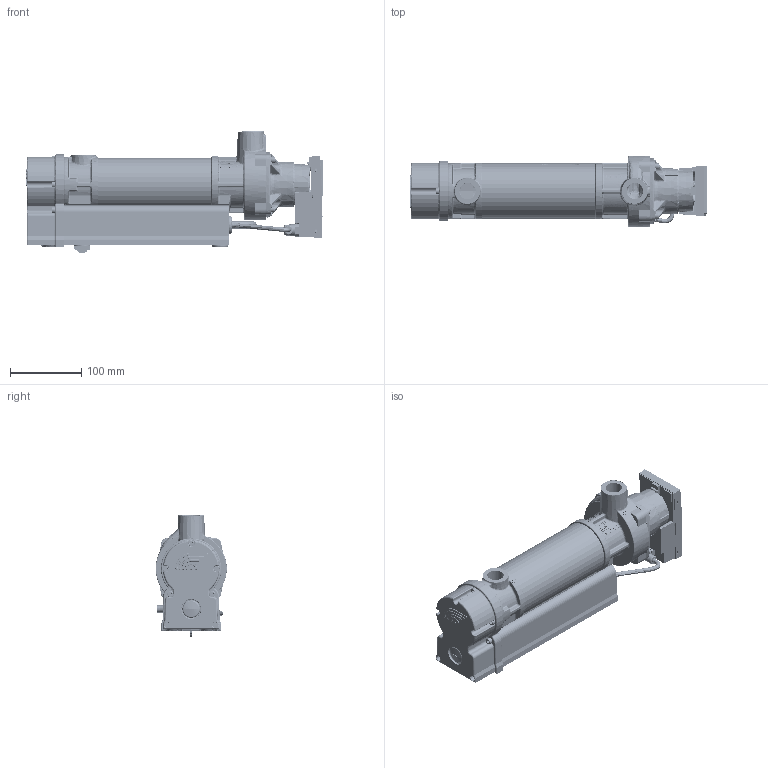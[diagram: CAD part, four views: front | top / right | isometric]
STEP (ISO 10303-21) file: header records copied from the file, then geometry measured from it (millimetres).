
FILE_DESCRIPTION (( 'STEP AP214' ), '1' );
FILE_NAME ('ASS_TOPSTART_3KW_WILOYP.STEP', '2014-01-10T08:53:43', ( '' ), ( '' ), 'SwSTEP 2.0', 'SolidWorks 2013', '' );
FILE_SCHEMA (( 'AUTOMOTIVE_DESIGN' ));
Length unit declared in the file: millimetre
Products named in the file (16): Vis-Al-6; 1597020-A; 3d-stp_WILO-Intec_Motor-MS13-F14-Yonos-Para-RK-WS8; BOUCHON; Pièce1^ASS_TOPSTART_3KW_WILOYP; GRCAPCAR; Pièce1; 462614; CORPS DE CHAUFFE TOPSTART-3KW GRUNFOS GF3018360rSURFACE_CORPS; BOUCHON_2; 1597020-R; Pièce_Iso_1; 1597020-C; ASS_TOPSTART_3KW_WILOYP; ip2632-refoidisseur-2012-09-10; 1597020-B
Assembly tree (24 placements, depth 3):
  ASS_TOPSTART_3KW_WILOYP
    CORPS DE CHAUFFE TOPSTART-3KW GRUNFOS GF3018360rSURFACE_CORPS
    GRCAPCAR
    3d-stp_WILO-Intec_Motor-MS13-F14-Yonos-Para-RK-WS8
    Vis-Al-6  x9
    ip2632-refoidisseur-2012-09-10
    Pièce_Iso_1
    BOUCHON_2
    Pièce1
    BOUCHON
    462614  x2
      1597020-A
      1597020-B
      1597020-C
      1597020-R
    Pièce1^ASS_TOPSTART_3KW_WILOYP
Bounding box: 466.64 x 102.32 x 170.62 mm (x, y, z)
Volume: 680474.5 mm3; surface area: 543905.4 mm2
Topology: 24 solids, 43 shells, 4565 faces, 11647 edges, 7200 vertices
Faces by surface type: bspline 1500, plane 1368, cylinder 1252, cone 288, torus 107, sphere 50
Entity records: 276582 total; most frequent: CARTESIAN_POINT 156995, ORIENTED_EDGE 20270, DIRECTION 12949, EDGE_CURVE 10167, VERTEX_POINT 6307, AXIS2_PLACEMENT_3D 4815, EDGE_LOOP 4288, B_SPLINE_CURVE_WITH_KNOTS 4255
